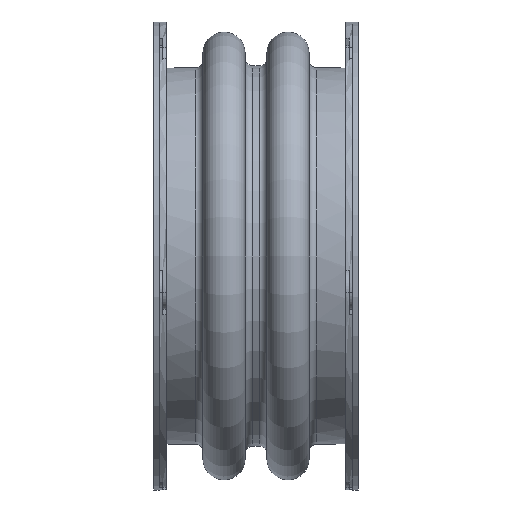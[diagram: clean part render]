
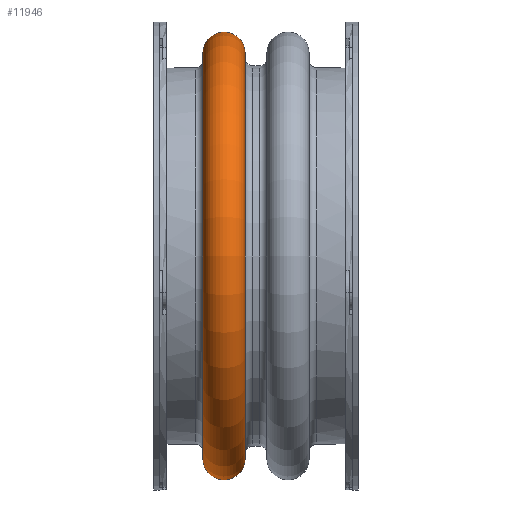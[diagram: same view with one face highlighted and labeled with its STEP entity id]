
A CAD part, front view. The second image highlights one B-rep face of the part: STEP entity #11946.
In plain terms, the highlighted toroidal (fillet/blend) face has major radius 352.425 mm and minor radius 36.513 mm.
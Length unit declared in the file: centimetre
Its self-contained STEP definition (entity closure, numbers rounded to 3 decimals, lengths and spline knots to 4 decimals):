
#293=FACE_BOUND('',#3356,.T.);
#822=TOROIDAL_SURFACE('',#13581,35.2425,3.6513);
#1826=CIRCLE('',#13580,35.3635);
#1827=CIRCLE('',#13582,35.3635);
#2455=FACE_OUTER_BOUND('',#3355,.T.);
#3355=EDGE_LOOP('',(#10485));
#3356=EDGE_LOOP('',(#10486));
#5708=VERTEX_POINT('',#21262);
#5709=VERTEX_POINT('',#21265);
#7318=EDGE_CURVE('',#5708,#5708,#1826,.T.);
#7319=EDGE_CURVE('',#5709,#5709,#1827,.T.);
#10485=ORIENTED_EDGE('',*,*,#7319,.F.);
#10486=ORIENTED_EDGE('',*,*,#7318,.T.);
#11946=ADVANCED_FACE('',(#2455,#293),#822,.T.);
#13580=AXIS2_PLACEMENT_3D('',#21263,#17403,#17404);
#13581=AXIS2_PLACEMENT_3D('',#21264,#17405,#17406);
#13582=AXIS2_PLACEMENT_3D('',#21266,#17407,#17408);
#17403=DIRECTION('center_axis',(1.,0.,0.));
#17404=DIRECTION('ref_axis',(0.,0.,-1.));
#17405=DIRECTION('center_axis',(1.,0.,0.));
#17406=DIRECTION('ref_axis',(0.,0.,-1.));
#17407=DIRECTION('center_axis',(1.,0.,0.));
#17408=DIRECTION('ref_axis',(0.,0.,-1.));
#21262=CARTESIAN_POINT('',(-9.2055,35.3635,0.));
#21263=CARTESIAN_POINT('Origin',(-9.2055,0.,
0.));
#21264=CARTESIAN_POINT('Origin',(-5.5563,0.,0.));
#21265=CARTESIAN_POINT('',(-1.907,35.3635,0.));
#21266=CARTESIAN_POINT('Origin',(-1.907,0.,
0.));
